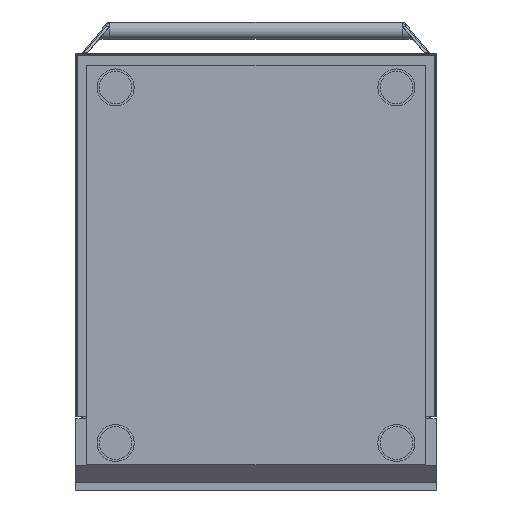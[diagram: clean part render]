
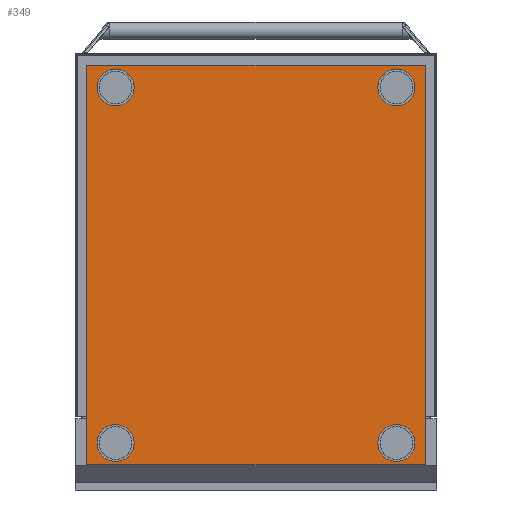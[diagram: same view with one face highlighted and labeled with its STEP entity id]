
A CAD part, front view. The second image highlights one B-rep face of the part: STEP entity #349.
In plain terms, the highlighted planar face has unit normal (0, -1, 0).
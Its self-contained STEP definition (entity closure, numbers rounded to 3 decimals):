
#26 = CARTESIAN_POINT ( 'NONE',  ( -240.8, 0., 709.75 ) ) ;
#39 = VERTEX_POINT ( 'NONE', #2989 ) ;
#133 = CIRCLE ( 'NONE', #9281, 31.75 ) ;
#256 = DIRECTION ( 'NONE',  ( -1., 0., 0. ) ) ;
#314 = DIRECTION ( 'NONE',  ( 0., -1., 0. ) ) ;
#322 = CARTESIAN_POINT ( 'NONE',  ( 240.8, 0., 678. ) ) ;
#349 = ADVANCED_FACE ( 'NONE', ( #3763, #6022, #3006, #3992, #4123 ), #6062, .F. ) ;
#404 = DIRECTION ( 'NONE',  ( -1., 0., 0. ) ) ;
#406 = DIRECTION ( 'NONE',  ( 0., -1., 0. ) ) ;
#414 = CARTESIAN_POINT ( 'NONE',  ( 240.8, 0., 68. ) ) ;
#477 = EDGE_CURVE ( 'NONE', #3267, #4277, #5292, .T. ) ;
#641 = CIRCLE ( 'NONE', #1251, 31.75 ) ;
#655 = VERTEX_POINT ( 'NONE', #6962 ) ;
#822 = VERTEX_POINT ( 'NONE', #9672 ) ;
#956 = EDGE_CURVE ( 'NONE', #4520, #822, #9220, .T. ) ;
#1073 = DIRECTION ( 'NONE',  ( -1., 0., 0. ) ) ;
#1086 = DIRECTION ( 'NONE',  ( 0., -1., 0. ) ) ;
#1099 = CARTESIAN_POINT ( 'NONE',  ( -240.8, 0., 68. ) ) ;
#1146 = EDGE_CURVE ( 'NONE', #822, #4520, #3447, .T. ) ;
#1251 = AXIS2_PLACEMENT_3D ( 'NONE', #1099, #1086, #1073 ) ;
#1563 = EDGE_CURVE ( 'NONE', #39, #7536, #641, .T. ) ;
#1579 = LINE ( 'NONE', #5598, #1600 ) ;
#1600 = VECTOR ( 'NONE', #5518, 1000. ) ;
#1930 = DIRECTION ( 'NONE',  ( -1., 0., 0. ) ) ;
#2218 = EDGE_CURVE ( 'NONE', #3351, #3267, #5927, .T. ) ;
#2449 = DIRECTION ( 'NONE',  ( -1., 0., 0. ) ) ;
#2501 = EDGE_CURVE ( 'NONE', #8359, #4277, #1579, .T. ) ;
#2624 = CARTESIAN_POINT ( 'NONE',  ( -240.8, 0., 678. ) ) ;
#2719 = EDGE_CURVE ( 'NONE', #4144, #5654, #133, .T. ) ;
#2769 = ORIENTED_EDGE ( 'NONE', *, *, #2501, .F. ) ;
#2810 = ORIENTED_EDGE ( 'NONE', *, *, #477, .T. ) ;
#2813 = ORIENTED_EDGE ( 'NONE', *, *, #2218, .T. ) ;
#2818 = CARTESIAN_POINT ( 'NONE',  ( 240.8, 0., 99.75 ) ) ;
#2824 = DIRECTION ( 'NONE',  ( 0., -1., 0. ) ) ;
#2836 = ORIENTED_EDGE ( 'NONE', *, *, #8435, .F. ) ;
#2846 = ORIENTED_EDGE ( 'NONE', *, *, #6865, .F. ) ;
#2861 = ORIENTED_EDGE ( 'NONE', *, *, #2719, .F. ) ;
#2870 = ORIENTED_EDGE ( 'NONE', *, *, #1146, .F. ) ;
#2896 = ORIENTED_EDGE ( 'NONE', *, *, #956, .F. ) ;
#2927 = ORIENTED_EDGE ( 'NONE', *, *, #3007, .F. ) ;
#2944 = ORIENTED_EDGE ( 'NONE', *, *, #8450, .F. ) ;
#2984 = ORIENTED_EDGE ( 'NONE', *, *, #1563, .F. ) ;
#2989 = CARTESIAN_POINT ( 'NONE',  ( -240.8, 0., 36.25 ) ) ;
#2995 = ORIENTED_EDGE ( 'NONE', *, *, #8908, .F. ) ;
#3006 = FACE_BOUND ( 'NONE', #9858, .T. ) ;
#3007 = EDGE_CURVE ( 'NONE', #655, #4954, #9839, .T. ) ;
#3247 = DIRECTION ( 'NONE',  ( -1., 0., 0. ) ) ;
#3267 = VERTEX_POINT ( 'NONE', #6821 ) ;
#3351 = VERTEX_POINT ( 'NONE', #5259 ) ;
#3447 = CIRCLE ( 'NONE', #9906, 31.75 ) ;
#3474 = DIRECTION ( 'NONE',  ( 0., -1., 0. ) ) ;
#3508 = CARTESIAN_POINT ( 'NONE',  ( -240.8, 0., 68. ) ) ;
#3555 = EDGE_LOOP ( 'NONE', ( #2995, #2984 ) ) ;
#3599 = AXIS2_PLACEMENT_3D ( 'NONE', #4446, #4519, #4551 ) ;
#3656 = EDGE_LOOP ( 'NONE', ( #2861, #2846 ) ) ;
#3763 = FACE_BOUND ( 'NONE', #3555, .T. ) ;
#3801 = CIRCLE ( 'NONE', #6711, 31.75 ) ;
#3976 = VECTOR ( 'NONE', #8606, 1000. ) ;
#3987 = CIRCLE ( 'NONE', #6727, 31.75 ) ;
#3992 = FACE_BOUND ( 'NONE', #3656, .T. ) ;
#4022 = LINE ( 'NONE', #9326, #3976 ) ;
#4123 = FACE_OUTER_BOUND ( 'NONE', #9035, .T. ) ;
#4144 = VERTEX_POINT ( 'NONE', #2818 ) ;
#4277 = VERTEX_POINT ( 'NONE', #10215 ) ;
#4446 = CARTESIAN_POINT ( 'NONE',  ( 240.8, 0., 68. ) ) ;
#4519 = DIRECTION ( 'NONE',  ( 0., -1., 0. ) ) ;
#4520 = VERTEX_POINT ( 'NONE', #5407 ) ;
#4551 = DIRECTION ( 'NONE',  ( -1., 0., 0. ) ) ;
#4835 = CIRCLE ( 'NONE', #3599, 31.75 ) ;
#4903 = AXIS2_PLACEMENT_3D ( 'NONE', #6054, #6076, #6085 ) ;
#4954 = VERTEX_POINT ( 'NONE', #26 ) ;
#5229 = VECTOR ( 'NONE', #7493, 1000. ) ;
#5259 = CARTESIAN_POINT ( 'NONE',  ( -290.8, 0., 31. ) ) ;
#5292 = LINE ( 'NONE', #8050, #5229 ) ;
#5407 = CARTESIAN_POINT ( 'NONE',  ( 240.8, 0., 709.75 ) ) ;
#5518 = DIRECTION ( 'NONE',  ( 1., 0., 0. ) ) ;
#5598 = CARTESIAN_POINT ( 'NONE',  ( -310., 0., 716. ) ) ;
#5654 = VERTEX_POINT ( 'NONE', #9542 ) ;
#5870 = VECTOR ( 'NONE', #8881, 1000. ) ;
#5927 = LINE ( 'NONE', #8880, #5870 ) ;
#6022 = FACE_BOUND ( 'NONE', #8718, .T. ) ;
#6054 = CARTESIAN_POINT ( 'NONE',  ( -310., 0., 737. ) ) ;
#6062 = PLANE ( 'NONE',  #4903 ) ;
#6076 = DIRECTION ( 'NONE',  ( 0., 1., 0. ) ) ;
#6085 = DIRECTION ( 'NONE',  ( -1., 0., 0. ) ) ;
#6195 = CARTESIAN_POINT ( 'NONE',  ( -290.8, 0., 716. ) ) ;
#6711 = AXIS2_PLACEMENT_3D ( 'NONE', #3508, #3474, #1930 ) ;
#6727 = AXIS2_PLACEMENT_3D ( 'NONE', #9830, #9859, #9888 ) ;
#6821 = CARTESIAN_POINT ( 'NONE',  ( 290.8, 0., 31. ) ) ;
#6865 = EDGE_CURVE ( 'NONE', #5654, #4144, #4835, .T. ) ;
#6962 = CARTESIAN_POINT ( 'NONE',  ( -240.8, 0., 646.25 ) ) ;
#7024 = AXIS2_PLACEMENT_3D ( 'NONE', #322, #314, #256 ) ;
#7391 = DIRECTION ( 'NONE',  ( 0., -1., 0. ) ) ;
#7419 = CARTESIAN_POINT ( 'NONE',  ( 240.8, 0., 678. ) ) ;
#7493 = DIRECTION ( 'NONE',  ( 0., 0., 1. ) ) ;
#7536 = VERTEX_POINT ( 'NONE', #9365 ) ;
#8050 = CARTESIAN_POINT ( 'NONE',  ( 290.8, 0., 110. ) ) ;
#8359 = VERTEX_POINT ( 'NONE', #6195 ) ;
#8435 = EDGE_CURVE ( 'NONE', #3351, #8359, #4022, .T. ) ;
#8450 = EDGE_CURVE ( 'NONE', #4954, #655, #3987, .T. ) ;
#8606 = DIRECTION ( 'NONE',  ( 0., 0., 1. ) ) ;
#8718 = EDGE_LOOP ( 'NONE', ( #2944, #2927 ) ) ;
#8880 = CARTESIAN_POINT ( 'NONE',  ( -310., 0., 31. ) ) ;
#8881 = DIRECTION ( 'NONE',  ( 1., 0., 0. ) ) ;
#8908 = EDGE_CURVE ( 'NONE', #7536, #39, #3801, .T. ) ;
#9035 = EDGE_LOOP ( 'NONE', ( #2836, #2813, #2810, #2769 ) ) ;
#9220 = CIRCLE ( 'NONE', #7024, 31.75 ) ;
#9281 = AXIS2_PLACEMENT_3D ( 'NONE', #414, #406, #404 ) ;
#9326 = CARTESIAN_POINT ( 'NONE',  ( -290.8, 0., 110. ) ) ;
#9365 = CARTESIAN_POINT ( 'NONE',  ( -240.8, 0., 99.75 ) ) ;
#9542 = CARTESIAN_POINT ( 'NONE',  ( 240.8, 0., 36.25 ) ) ;
#9672 = CARTESIAN_POINT ( 'NONE',  ( 240.8, 0., 646.25 ) ) ;
#9737 = AXIS2_PLACEMENT_3D ( 'NONE', #2624, #2824, #2449 ) ;
#9830 = CARTESIAN_POINT ( 'NONE',  ( -240.8, 0., 678. ) ) ;
#9839 = CIRCLE ( 'NONE', #9737, 31.75 ) ;
#9858 = EDGE_LOOP ( 'NONE', ( #2896, #2870 ) ) ;
#9859 = DIRECTION ( 'NONE',  ( 0., -1., 0. ) ) ;
#9888 = DIRECTION ( 'NONE',  ( -1., 0., 0. ) ) ;
#9906 = AXIS2_PLACEMENT_3D ( 'NONE', #7419, #7391, #3247 ) ;
#10215 = CARTESIAN_POINT ( 'NONE',  ( 290.8, 0., 716. ) ) ;
